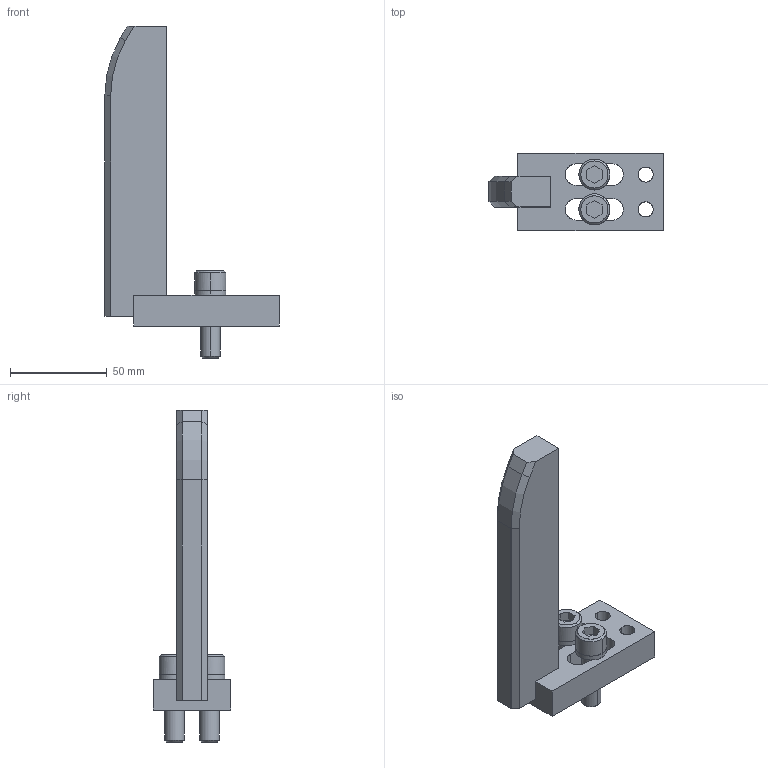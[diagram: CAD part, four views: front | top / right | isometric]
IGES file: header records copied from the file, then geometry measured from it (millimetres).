
Global section: file name: E:\UnigraphicsGraphicData\MISUMI_PRESS-PARTS\IGES\3d_enstc155-20-m10_01438_r00.igs; native system: NX V5.0; preprocessor: UGS NX IGES V5.0; author: MISUMI; date: 20110105.160626; units: millimetre
Bounding box: 90 x 40 x 171.5 mm (x, y, z)
Surface area: 29639.4 mm2 (no closed solid volume)
Topology: 0 solids, 0 shells, 80 faces, 517 edges, 517 vertices
Faces by surface type: bspline 80
